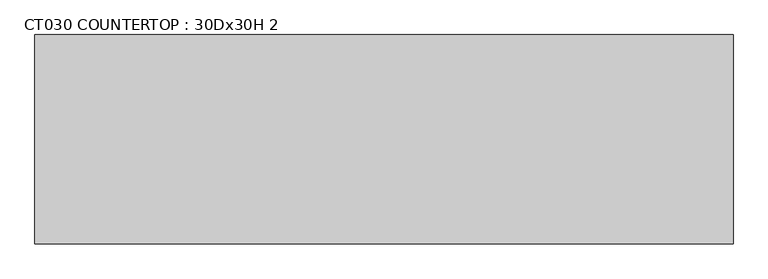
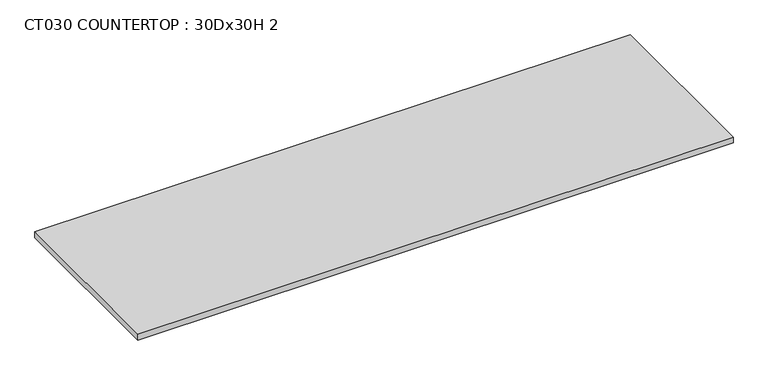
"""IFC4 building model written with IfcOpenShell, lengths in millimetres: furniture geometry, CT030 COUNTERTOP : 30Dx30H 2."""

from ifc_helpers import new_model, si_unit, frame, origin, place, context, project, spatial, polyline, outline, extrude, source, transform, mapped, element, save


def ct030_countertop_30dx30h_2_705c02c1(model_context):
    return source(origin(), model_context, "Body", "SweptSolid", [
        extrude(outline(polyline([(1339.5377049, -462.6), (1339.5377049, -1224.6), (-1200.4622951, -1224.6), (-1200.4622951, -462.6), (1339.5377049, -462.6)])), frame((0.0, 0.0, 736.6), z_axis=(0.0, 0.0, 1.0), x_axis=(1.0, 0.0, 0.0)), (0.0, 0.0, 1.0), 25.4),
    ])


if __name__ == "__main__":
    model = new_model("IFC4")
    model_context = context("Model", 3, world=origin())
    ifc_project = project(units=[si_unit("LENGTHUNIT", "METRE", prefix="MILLI")], contexts=[model_context])
    site = spatial("IfcSite", under=ifc_project)
    building = spatial("IfcBuilding", under=site)
    placement = place(None, origin())
    ct030_countertop_30dx30h_2_shape = ct030_countertop_30dx30h_2_705c02c1(model_context)
    element("IfcFurniture", 1, ObjectType="CT030 COUNTERTOP : 30Dx30H 2", at=placement, inside=building, context=model_context, shape_type="MappedRepresentation", body=[
        mapped(ct030_countertop_30dx30h_2_shape, transform((0.0, 0.0, 0.0), x_axis=(1.0, 0.0, 0.0), y_axis=(0.0, 1.0, 0.0), z_axis=(0.0, 0.0, 1.0))),
    ])
    save(model, "model.ifc")
